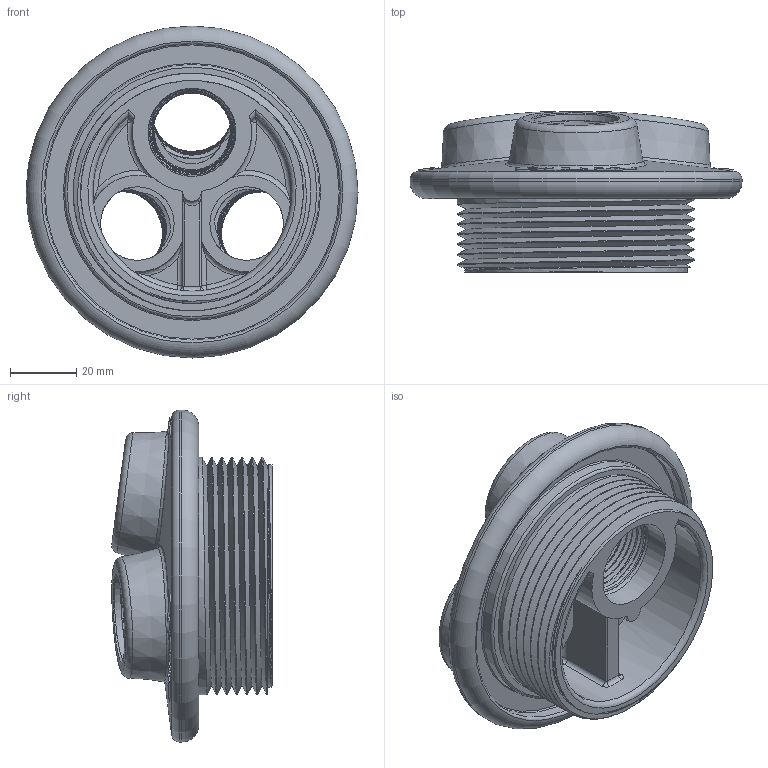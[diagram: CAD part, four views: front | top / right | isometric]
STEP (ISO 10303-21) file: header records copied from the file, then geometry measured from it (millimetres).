
FILE_DESCRIPTION(/* description */ ('Alibre Inc.'),/* implementation_level */ '2;1');
FILE_NAME(/* name */ 'export0',/* time_stamp */ '2017-03-19T11:22:11-04:00',/* author */ (''),/* organization */ (''),/* preprocessor_version */ 'ST-DEVELOPER v14',/* originating_system */ 'Alibre',/* authorisation */ '');
FILE_SCHEMA (('CONFIG_CONTROL_DESIGN'));
Length unit declared in the file: centimetre
Products named in the file (1): ID_1
Bounding box: 100.29 x 48.49 x 100.29 mm (x, y, z)
Volume: 106847 mm3; surface area: 48382 mm2
Topology: 1 solids, 1 shells, 477 faces, 1317 edges, 859 vertices
Faces by surface type: plane 167, cone 136, bspline 95, cylinder 57, torus 22
Full cylindrical faces by diameter (mm): 9.652 x1, 22.225 x2, 26.622 x7, 27.432 x3, 71.768 x6, 76.962 x1, 89.662 x1, 100.292 x1
Entity records: 296561 total; most frequent: CARTESIAN_POINT 286379, ORIENTED_EDGE 2510, DIRECTION 1320, EDGE_CURVE 1255, VERTEX_POINT 837, B_SPLINE_CURVE_WITH_KNOTS 533, EDGE_LOOP 532, FACE_BOUND 532
